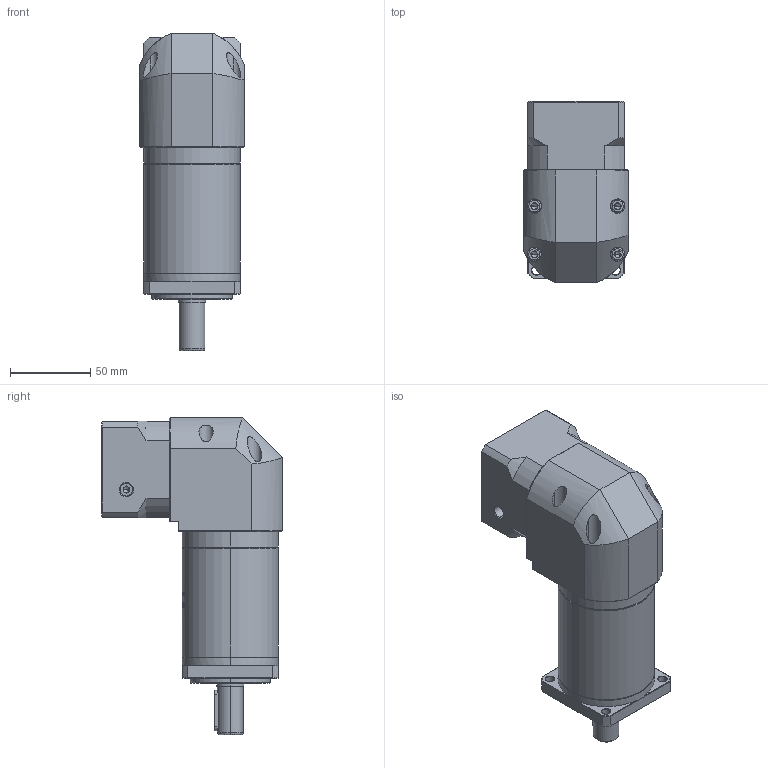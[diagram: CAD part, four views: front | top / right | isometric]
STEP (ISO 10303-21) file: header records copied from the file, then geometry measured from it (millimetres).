
FILE_DESCRIPTION (( 'STEP AP214' ), '1' );
FILE_NAME ('ZFR060-D16-L3-P2-14-50-70-M4.step', '2023-08-17T03:36:02', ( '' ), ( '' ), 'SwSTEP 2.0', 'SolidWorks 2016', '' );
FILE_SCHEMA (( 'AUTOMOTIVE_DESIGN' ));
Length unit declared in the file: millimetre
Products named in the file (1): ZFR060-D16-L3-P2-14-50-70-M4
Bounding box: 65 x 112.7 x 197.5 mm (x, y, z)
Volume: 637230.2 mm3; surface area: 84922.4 mm2
Topology: 5 solids, 6 shells, 1914 faces, 5101 edges, 3284 vertices
Faces by surface type: plane 847, cylinder 399, bspline 366, cone 290, torus 12
Entity records: 104350 total; most frequent: CARTESIAN_POINT 39888, ORIENTED_EDGE 10158, DIRECTION 7544, EDGE_CURVE 5079, VERTEX_POINT 3284, VECTOR 2594, LINE 2594, AXIS2_PLACEMENT_3D 2475
